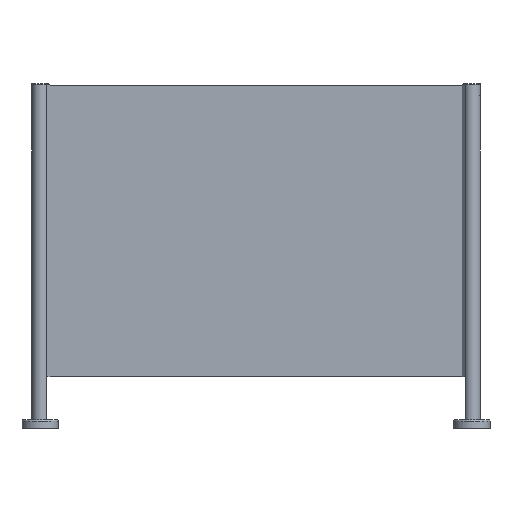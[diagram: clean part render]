
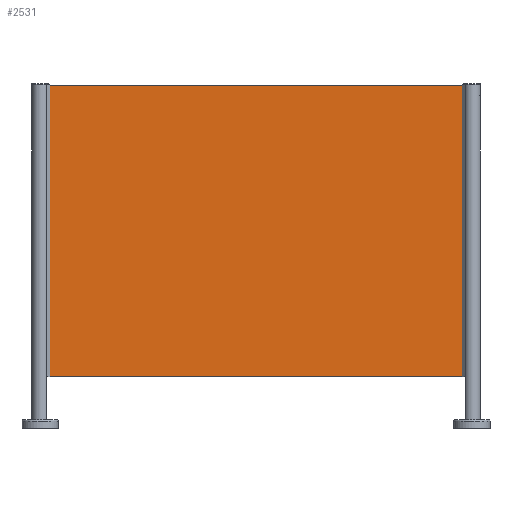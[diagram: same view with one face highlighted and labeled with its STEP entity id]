
A CAD part, left-side view. The second image highlights one B-rep face of the part: STEP entity #2531.
In plain terms, the highlighted planar face has unit normal (-1, 0, 0) as drawn and (0, -1, 0) by its records, which use the part's own axes.
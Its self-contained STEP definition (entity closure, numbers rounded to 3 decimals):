
#365=LINE('',#4419,#601);
#369=LINE('',#4427,#605);
#372=LINE('',#4433,#608);
#374=LINE('',#4436,#610);
#601=VECTOR('',#3582,1000.);
#605=VECTOR('',#3588,1000.);
#608=VECTOR('',#3593,1000.);
#610=VECTOR('',#3597,1000.);
#1295=ORIENTED_EDGE('',*,*,#1639,.T.);
#1296=ORIENTED_EDGE('',*,*,#1643,.T.);
#1297=ORIENTED_EDGE('',*,*,#1646,.T.);
#1298=ORIENTED_EDGE('',*,*,#1648,.T.);
#1639=EDGE_CURVE('',#1872,#1871,#365,.T.);
#1643=EDGE_CURVE('',#1871,#1874,#369,.T.);
#1646=EDGE_CURVE('',#1874,#1876,#372,.T.);
#1648=EDGE_CURVE('',#1876,#1872,#374,.T.);
#1871=VERTEX_POINT('',#4418);
#1872=VERTEX_POINT('',#4420);
#1874=VERTEX_POINT('',#4426);
#1876=VERTEX_POINT('',#4432);
#2141=EDGE_LOOP('',(#1295,#1296,#1297,#1298));
#2305=FACE_BOUND('',#2141,.T.);
#2388=PLANE('',#2864);
#2531=ADVANCED_FACE('',(#2305),#2388,.T.);
#2864=AXIS2_PLACEMENT_3D('',#4437,#3598,#3599);
#3582=DIRECTION('',(0.,0.,-1.));
#3588=DIRECTION('',(1.,0.,0.));
#3593=DIRECTION('',(0.,0.,1.));
#3597=DIRECTION('',(-1.,0.,0.));
#3598=DIRECTION('',(0.,-1.,0.));
#3599=DIRECTION('',(0.,0.,-1.));
#4418=CARTESIAN_POINT('',(-422.,-5.,-629.));
#4419=CARTESIAN_POINT('',(-422.,-5.,629.));
#4420=CARTESIAN_POINT('',(-422.,-5.,629.));
#4426=CARTESIAN_POINT('',(422.,-5.,-629.));
#4427=CARTESIAN_POINT('',(-422.,-5.,-629.));
#4432=CARTESIAN_POINT('',(422.,-5.,629.));
#4433=CARTESIAN_POINT('',(422.,-5.,-629.));
#4436=CARTESIAN_POINT('',(422.,-5.,629.));
#4437=CARTESIAN_POINT('',(-422.,-5.,-629.));
